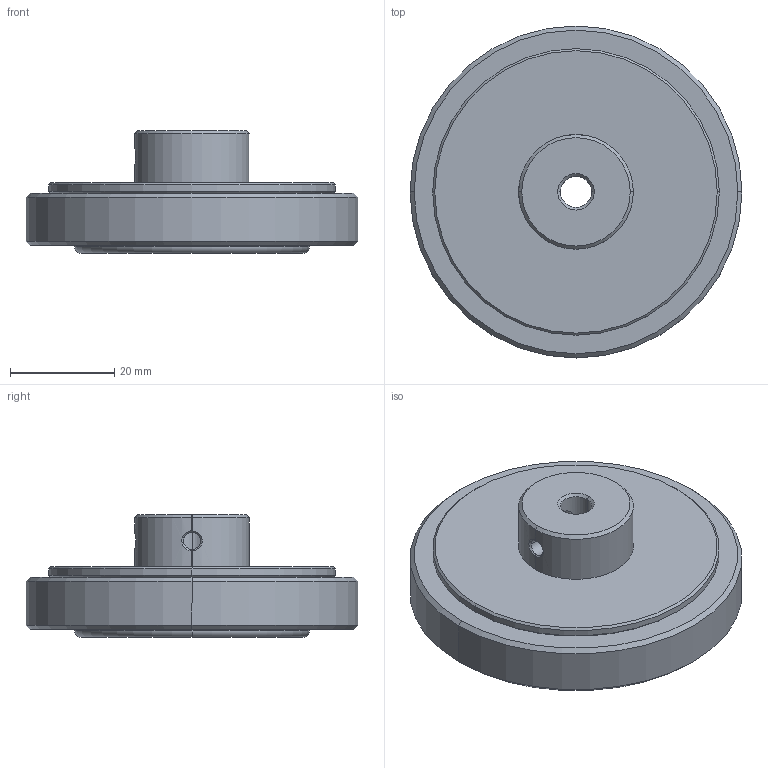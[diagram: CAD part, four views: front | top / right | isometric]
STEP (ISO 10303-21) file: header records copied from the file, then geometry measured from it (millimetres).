
FILE_DESCRIPTION (( 'STEP AP214' ), '1' );
FILE_NAME ('蚾饜极200.STEP', '2021-07-26T08:36:33', ( 'Windows 蚚誧' ), ( '' ), 'SwSTEP 2.0', 'SolidWorks 2020', '' );
FILE_SCHEMA (( 'AUTOMOTIVE_DESIGN' ));
Length unit declared in the file: millimetre
Products named in the file (3): 200t(1); 蚾饜极200; 200(1)
Assembly tree (2 placements, depth 2):
  蚾饜极200
    200(1)
    200t(1)
Bounding box: 63.7 x 63.7 x 23.5 mm (x, y, z)
Volume: 41786.4 mm3; surface area: 15164.7 mm2
Topology: 2 solids, 2 shells, 57 faces, 131 edges, 79 vertices
Faces by surface type: cylinder 24, cone 20, plane 7, bspline 4, torus 2
Entity records: 3932 total; most frequent: CARTESIAN_POINT 2535, DIRECTION 282, ORIENTED_EDGE 262, EDGE_CURVE 131, AXIS2_PLACEMENT_3D 118, VERTEX_POINT 79, EDGE_LOOP 66, CIRCLE 60
